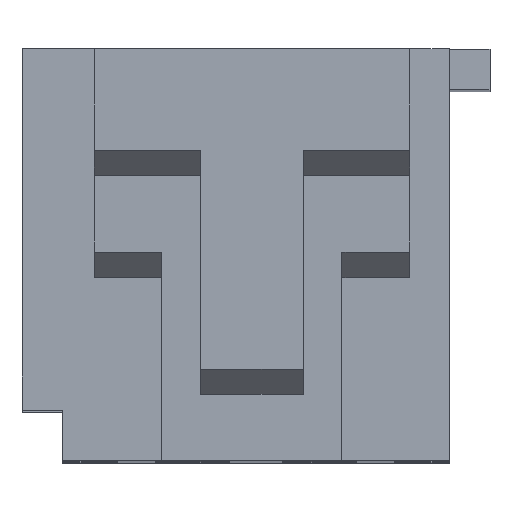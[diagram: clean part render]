
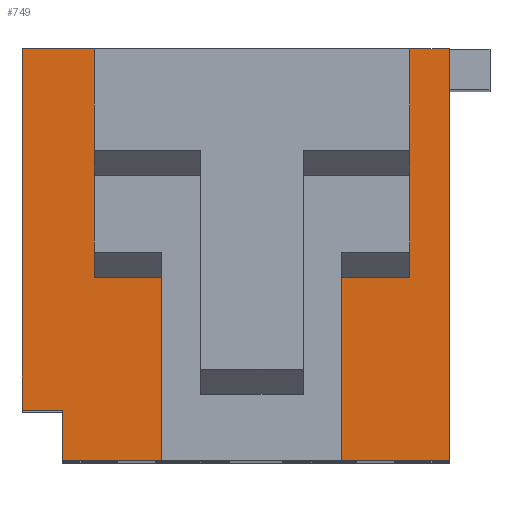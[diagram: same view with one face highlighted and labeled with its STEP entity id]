
A CAD part, top view. The second image highlights one B-rep face of the part: STEP entity #749.
In plain terms, the highlighted planar face has unit normal (0, 0, 1).
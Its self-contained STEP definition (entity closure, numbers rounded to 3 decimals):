
#57 = CARTESIAN_POINT ( 'NONE',  ( -2.241, -1.934, 16.795 ) ) ;
#262 = CARTESIAN_POINT ( 'NONE',  ( -3.041, -1.934, 16.795 ) ) ;
#334 = AXIS2_PLACEMENT_3D ( 'NONE', #3385, #10808, #11793 ) ;
#467 = CARTESIAN_POINT ( 'NONE',  ( 3.249, 0.666, 16.795 ) ) ;
#493 = VECTOR ( 'NONE', #4325, 1000. ) ;
#657 = LINE ( 'NONE', #3748, #6311 ) ;
#749 = ADVANCED_FACE ( 'NONE', ( #7721 ), #8695, .F. ) ;
#761 = ORIENTED_EDGE ( 'NONE', *, *, #8167, .F. ) ;
#877 = CARTESIAN_POINT ( 'NONE',  ( -1.621, 0.666, 16.795 ) ) ;
#1118 = CARTESIAN_POINT ( 'NONE',  ( -1.621, 5.166, 16.795 ) ) ;
#1234 = VECTOR ( 'NONE', #7542, 1000. ) ;
#1263 = CARTESIAN_POINT ( 'NONE',  ( 4.579, 5.166, 16.795 ) ) ;
#1388 = VERTEX_POINT ( 'NONE', #3910 ) ;
#1449 = DIRECTION ( 'NONE',  ( 1., 0., 0. ) ) ;
#1569 = EDGE_CURVE ( 'NONE', #9638, #12260, #8590, .T. ) ;
#1759 = DIRECTION ( 'NONE',  ( 0., -1., 0. ) ) ;
#2097 = ORIENTED_EDGE ( 'NONE', *, *, #10461, .F. ) ;
#2453 = EDGE_CURVE ( 'NONE', #10604, #7501, #5377, .T. ) ;
#2525 = CARTESIAN_POINT ( 'NONE',  ( 5.359, -2.934, 16.795 ) ) ;
#2831 = DIRECTION ( 'NONE',  ( 0., -1., 0. ) ) ;
#2846 = LINE ( 'NONE', #7181, #12571 ) ;
#3244 = EDGE_CURVE ( 'NONE', #10757, #12570, #4509, .T. ) ;
#3350 = CARTESIAN_POINT ( 'NONE',  ( -3.041, 5.166, 16.795 ) ) ;
#3385 = CARTESIAN_POINT ( 'NONE',  ( -1.621, 5.166, 16.795 ) ) ;
#3534 = DIRECTION ( 'NONE',  ( 1., 0., 0. ) ) ;
#3748 = CARTESIAN_POINT ( 'NONE',  ( 4.579, 5.166, 16.795 ) ) ;
#3838 = VECTOR ( 'NONE', #1759, 1000. ) ;
#3874 = VECTOR ( 'NONE', #2831, 1000. ) ;
#3910 = CARTESIAN_POINT ( 'NONE',  ( -2.241, -2.934, 16.795 ) ) ;
#4083 = CARTESIAN_POINT ( 'NONE',  ( 3.249, 5.166, 16.795 ) ) ;
#4095 = DIRECTION ( 'NONE',  ( 1., 0., 0. ) ) ;
#4232 = CARTESIAN_POINT ( 'NONE',  ( -3.041, 0.666, 16.795 ) ) ;
#4325 = DIRECTION ( 'NONE',  ( 0., -1., 0. ) ) ;
#4366 = EDGE_CURVE ( 'NONE', #12780, #12570, #657, .T. ) ;
#4480 = EDGE_CURVE ( 'NONE', #6383, #6559, #5134, .T. ) ;
#4509 = LINE ( 'NONE', #7732, #9464 ) ;
#4928 = CARTESIAN_POINT ( 'NONE',  ( 5.359, 5.166, 16.795 ) ) ;
#4929 = VECTOR ( 'NONE', #1449, 1000. ) ;
#5134 = LINE ( 'NONE', #8420, #3874 ) ;
#5156 = ORIENTED_EDGE ( 'NONE', *, *, #10704, .T. ) ;
#5235 = DIRECTION ( 'NONE',  ( 0., 1., 0. ) ) ;
#5377 = LINE ( 'NONE', #9642, #493 ) ;
#5382 = VERTEX_POINT ( 'NONE', #57 ) ;
#5803 = LINE ( 'NONE', #9157, #10207 ) ;
#5849 = EDGE_CURVE ( 'NONE', #5382, #1388, #7791, .T. ) ;
#6179 = VECTOR ( 'NONE', #4095, 1000. ) ;
#6219 = CARTESIAN_POINT ( 'NONE',  ( 4.579, 0.666, 16.795 ) ) ;
#6232 = DIRECTION ( 'NONE',  ( -1., 0., 0. ) ) ;
#6274 = LINE ( 'NONE', #10557, #10972 ) ;
#6311 = VECTOR ( 'NONE', #11110, 1000. ) ;
#6383 = VERTEX_POINT ( 'NONE', #9129 ) ;
#6472 = ORIENTED_EDGE ( 'NONE', *, *, #4480, .F. ) ;
#6559 = VERTEX_POINT ( 'NONE', #877 ) ;
#6818 = ORIENTED_EDGE ( 'NONE', *, *, #10202, .T. ) ;
#7181 = CARTESIAN_POINT ( 'NONE',  ( -1.621, -2.934, 16.795 ) ) ;
#7260 = CARTESIAN_POINT ( 'NONE',  ( -0.291, 0.666, 16.795 ) ) ;
#7306 = LINE ( 'NONE', #4232, #6179 ) ;
#7501 = VERTEX_POINT ( 'NONE', #12689 ) ;
#7542 = DIRECTION ( 'NONE',  ( 1., 0., 0. ) ) ;
#7596 = EDGE_CURVE ( 'NONE', #13352, #12780, #9532, .T. ) ;
#7719 = VERTEX_POINT ( 'NONE', #2525 ) ;
#7721 = FACE_OUTER_BOUND ( 'NONE', #12896, .T. ) ;
#7732 = CARTESIAN_POINT ( 'NONE',  ( -3.041, 0.666, 16.795 ) ) ;
#7791 = LINE ( 'NONE', #8061, #3838 ) ;
#8011 = ORIENTED_EDGE ( 'NONE', *, *, #5849, .T. ) ;
#8061 = CARTESIAN_POINT ( 'NONE',  ( -2.241, -1.934, 16.795 ) ) ;
#8099 = DIRECTION ( 'NONE',  ( -1., 0., 0. ) ) ;
#8167 = EDGE_CURVE ( 'NONE', #7719, #1388, #2846, .T. ) ;
#8250 = ORIENTED_EDGE ( 'NONE', *, *, #2453, .T. ) ;
#8252 = ORIENTED_EDGE ( 'NONE', *, *, #12851, .F. ) ;
#8420 = CARTESIAN_POINT ( 'NONE',  ( -1.621, 5.166, 16.795 ) ) ;
#8590 = LINE ( 'NONE', #12878, #1234 ) ;
#8695 = PLANE ( 'NONE',  #334 ) ;
#8878 = ORIENTED_EDGE ( 'NONE', *, *, #4366, .T. ) ;
#8940 = CARTESIAN_POINT ( 'NONE',  ( -0.291, 5.166, 16.795 ) ) ;
#9030 = DIRECTION ( 'NONE',  ( 0., 1., 0. ) ) ;
#9129 = CARTESIAN_POINT ( 'NONE',  ( -1.621, 5.166, 16.795 ) ) ;
#9157 = CARTESIAN_POINT ( 'NONE',  ( 5.359, 5.166, 16.795 ) ) ;
#9367 = VECTOR ( 'NONE', #9030, 1000. ) ;
#9464 = VECTOR ( 'NONE', #3534, 1000. ) ;
#9532 = LINE ( 'NONE', #11926, #9760 ) ;
#9638 = VERTEX_POINT ( 'NONE', #8940 ) ;
#9642 = CARTESIAN_POINT ( 'NONE',  ( -3.041, 5.166, 16.795 ) ) ;
#9663 = LINE ( 'NONE', #1118, #11542 ) ;
#9760 = VECTOR ( 'NONE', #6232, 1000. ) ;
#9912 = EDGE_CURVE ( 'NONE', #6559, #10464, #7306, .T. ) ;
#9947 = LINE ( 'NONE', #13309, #9367 ) ;
#10202 = EDGE_CURVE ( 'NONE', #6383, #10604, #9663, .T. ) ;
#10207 = VECTOR ( 'NONE', #10355, 1000. ) ;
#10355 = DIRECTION ( 'NONE',  ( 0., -1., 0. ) ) ;
#10461 = EDGE_CURVE ( 'NONE', #13352, #7719, #5803, .T. ) ;
#10464 = VERTEX_POINT ( 'NONE', #7260 ) ;
#10557 = CARTESIAN_POINT ( 'NONE',  ( 3.249, -3.105, 16.795 ) ) ;
#10604 = VERTEX_POINT ( 'NONE', #3350 ) ;
#10704 = EDGE_CURVE ( 'NONE', #10757, #12260, #6274, .T. ) ;
#10705 = ORIENTED_EDGE ( 'NONE', *, *, #1569, .F. ) ;
#10757 = VERTEX_POINT ( 'NONE', #467 ) ;
#10795 = EDGE_CURVE ( 'NONE', #7501, #5382, #11051, .T. ) ;
#10808 = DIRECTION ( 'NONE',  ( 0., 0., -1. ) ) ;
#10972 = VECTOR ( 'NONE', #5235, 1000. ) ;
#11051 = LINE ( 'NONE', #262, #4929 ) ;
#11110 = DIRECTION ( 'NONE',  ( 0., -1., 0. ) ) ;
#11120 = ORIENTED_EDGE ( 'NONE', *, *, #3244, .F. ) ;
#11542 = VECTOR ( 'NONE', #11914, 1000. ) ;
#11793 = DIRECTION ( 'NONE',  ( 1., 0., 0. ) ) ;
#11914 = DIRECTION ( 'NONE',  ( -1., 0., 0. ) ) ;
#11926 = CARTESIAN_POINT ( 'NONE',  ( 5.359, 5.166, 16.795 ) ) ;
#12260 = VERTEX_POINT ( 'NONE', #4083 ) ;
#12533 = ORIENTED_EDGE ( 'NONE', *, *, #9912, .F. ) ;
#12570 = VERTEX_POINT ( 'NONE', #6219 ) ;
#12571 = VECTOR ( 'NONE', #8099, 1000. ) ;
#12689 = CARTESIAN_POINT ( 'NONE',  ( -3.041, -1.934, 16.795 ) ) ;
#12780 = VERTEX_POINT ( 'NONE', #1263 ) ;
#12851 = EDGE_CURVE ( 'NONE', #10464, #9638, #9947, .T. ) ;
#12878 = CARTESIAN_POINT ( 'NONE',  ( -0.291, 5.166, 16.795 ) ) ;
#12891 = ORIENTED_EDGE ( 'NONE', *, *, #7596, .T. ) ;
#12896 = EDGE_LOOP ( 'NONE', ( #6472, #6818, #8250, #13186, #8011, #761, #2097, #12891, #8878, #11120, #5156, #10705, #8252, #12533 ) ) ;
#13186 = ORIENTED_EDGE ( 'NONE', *, *, #10795, .T. ) ;
#13309 = CARTESIAN_POINT ( 'NONE',  ( -0.291, -3.105, 16.795 ) ) ;
#13352 = VERTEX_POINT ( 'NONE', #4928 ) ;
